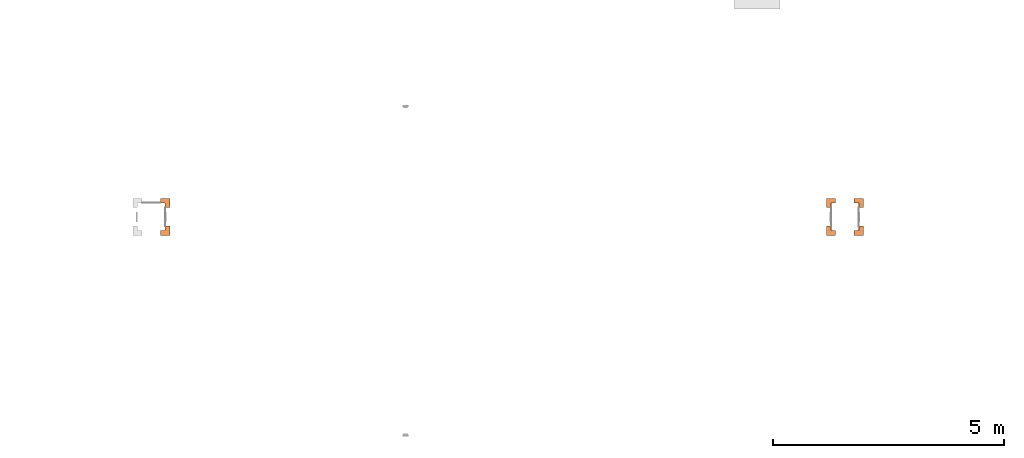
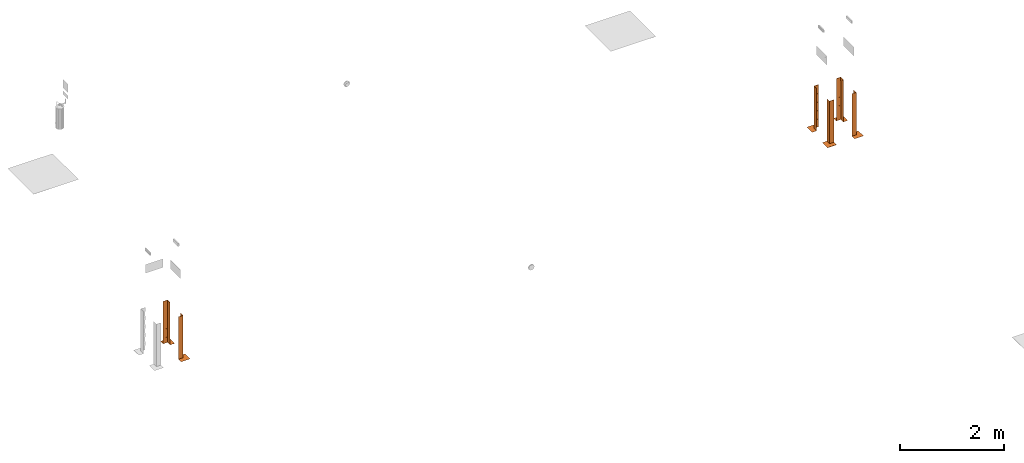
# One storey, part 6 of 119: 6 proxies.
"""IFC2X3 building model written with IfcOpenShell, lengths in metres."""

from ifc_helpers import new_model, entity, si_unit, converted_unit, derived_unit, direction, frame, origin, place, context, subcontext, project, spatial, faceted_brep, source, transform, mapped, material, material_list, type_object, type_shapes, element, save


model = new_model("IFC2X3")

# Units and contexts
model_context = context("Model", 3, precision=1e-05, world=origin(), true_north=direction((6.12303176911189e-17, 1.0)))
body_context = subcontext(model_context, "Body", "Model", "MODEL_VIEW")
ifc_project = project(units=[si_unit("LENGTHUNIT", "METRE"), si_unit("AREAUNIT", "SQUARE_METRE"), si_unit("VOLUMEUNIT", "CUBIC_METRE"), converted_unit("PLANEANGLEUNIT", "DEGREE", entity("IfcRatioMeasure", 0.0174532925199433), si_unit("PLANEANGLEUNIT", "RADIAN"), dimensions=[0, 0, 0, 0, 0, 0, 0]), si_unit("MASSUNIT", "GRAM", prefix="KILO"), derived_unit("MASSDENSITYUNIT", [(si_unit("MASSUNIT", "GRAM", prefix="KILO"), 1), (si_unit("LENGTHUNIT", "METRE"), -3)]), derived_unit("MOMENTOFINERTIAUNIT", [(si_unit("LENGTHUNIT", "METRE"), 4)]), si_unit("TIMEUNIT", "SECOND"), si_unit("FREQUENCYUNIT", "HERTZ"), si_unit("THERMODYNAMICTEMPERATUREUNIT", "DEGREE_CELSIUS"), derived_unit("THERMALTRANSMITTANCEUNIT", [(si_unit("MASSUNIT", "GRAM", prefix="KILO"), 1), (si_unit("THERMODYNAMICTEMPERATUREUNIT", "KELVIN"), -1), (si_unit("TIMEUNIT", "SECOND"), -3)]), derived_unit("VOLUMETRICFLOWRATEUNIT", [(si_unit("LENGTHUNIT", "METRE"), 3), (si_unit("TIMEUNIT", "SECOND"), -1)]), si_unit("ELECTRICCURRENTUNIT", "AMPERE"), si_unit("ELECTRICVOLTAGEUNIT", "VOLT"), si_unit("POWERUNIT", "WATT"), si_unit("FORCEUNIT", "NEWTON", prefix="KILO"), si_unit("ILLUMINANCEUNIT", "LUX"), si_unit("LUMINOUSFLUXUNIT", "LUMEN"), si_unit("LUMINOUSINTENSITYUNIT", "CANDELA"), derived_unit("USERDEFINED", [(si_unit("MASSUNIT", "GRAM", prefix="KILO"), -1), (si_unit("LENGTHUNIT", "METRE"), -2), (si_unit("TIMEUNIT", "SECOND"), 3), (si_unit("LUMINOUSFLUXUNIT", "LUMEN"), 1)]), derived_unit("LINEARVELOCITYUNIT", [(si_unit("LENGTHUNIT", "METRE"), 1), (si_unit("TIMEUNIT", "SECOND"), -1)]), si_unit("PRESSUREUNIT", "PASCAL"), derived_unit("USERDEFINED", [(si_unit("LENGTHUNIT", "METRE"), -2), (si_unit("MASSUNIT", "GRAM", prefix="KILO"), 1), (si_unit("TIMEUNIT", "SECOND"), -2)]), derived_unit("LINEARFORCEUNIT", [(si_unit("MASSUNIT", "GRAM", prefix="KILO"), 1), (si_unit("LENGTHUNIT", "METRE"), 1), (si_unit("TIMEUNIT", "SECOND"), -2), (si_unit("LENGTHUNIT", "METRE"), -1)]), derived_unit("PLANARFORCEUNIT", [(si_unit("MASSUNIT", "GRAM", prefix="KILO"), 1), (si_unit("LENGTHUNIT", "METRE"), 1), (si_unit("TIMEUNIT", "SECOND"), -2), (si_unit("LENGTHUNIT", "METRE"), -2)])], contexts=[model_context])

# Site, building, storey
site_placement = place(None, origin())
site = spatial("IfcSite", under=ifc_project, at=site_placement, Name="Default", CompositionType="ELEMENT")
building_placement = place(site_placement, origin())
building = spatial("IfcBuilding", under=site, at=building_placement, CompositionType="ELEMENT")
storey_placement = place(building_placement, origin())
storey = spatial("IfcBuildingStorey", under=building, at=storey_placement, Name="PAV. 01 - TÉRREO", CompositionType="ELEMENT", Elevation=0.0)

# Proxies
ifc_material_1 = material(Name="Plastico Amarelo")
ifc_material_2 = material(Name="Plastico Preto")
ifc_material_3 = material(Name="O_01_amarelo")
ifc_material_4 = material(Name="O_01_Preto")
ifc_material_list_1 = material_list([ifc_material_1, ifc_material_2, ifc_material_3, ifc_material_4])
ifc_material_list_2 = material_list([ifc_material_3, ifc_material_4, ifc_material_1])
building_element_proxy_type = type_object("IfcBuildingElementProxyType", Name="Indicação de Obstáculos:Indicador - O01 - Amarelo (ambiente interno)", PredefinedType="NOTDEFINED", material=ifc_material_list_2)
shared_shape = source(origin(), body_context, "Body", "Brep", [
    faceted_brep([(0.1, -0.0499999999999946, 0.000999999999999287), (0.0499999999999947, -0.1, 0.000999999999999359), (0.1, -0.1, 0.000999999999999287), (0.1, -0.0499999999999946, 0.0), (0.1, -0.1, 0.0), (0.0499999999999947, -0.1, 0.0)], [[[0, 1, 2]], [[3, 4, 5]], [[0, 2, 4, 3]], [[1, 0, 3, 5]], [[2, 1, 5, 4]]]),
    faceted_brep([(0.100000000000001, 0.0, 0.000999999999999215), (0.0, -0.1, 0.000999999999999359), (0.049999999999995, -0.1, 0.000999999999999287), (0.100000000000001, -0.0499999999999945, 0.000999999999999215), (0.100000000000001, 0.0, 0.0), (0.100000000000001, -0.0499999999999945, 0.0), (0.049999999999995, -0.1, 0.0), (0.0, -0.1, 0.0)], [[[0, 1, 2, 3]], [[4, 5, 6, 7]], [[0, 3, 5, 4]], [[1, 0, 4, 7]], [[3, 2, 6, 5]], [[2, 1, 7, 6]]]),
    faceted_brep([(0.049999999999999, 0.0, 0.000999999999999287), (-0.0500000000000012, -0.0999999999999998, 0.000999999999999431), (0.0, -0.1, 0.000999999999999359), (0.0999999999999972, 0.0, 0.000999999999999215), (0.049999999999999, 0.0, 0.0), (0.0999999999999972, 0.0, 0.0), (0.0, -0.1, 0.0), (-0.0500000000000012, -0.0999999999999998, 0.0)], [[[0, 1, 2, 3]], [[4, 5, 6, 7]], [[1, 0, 4, 7]], [[3, 2, 6, 5]], [[2, 1, 7, 6]], [[0, 3, 5, 4]]]),
    faceted_brep([(-0.0999999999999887, -0.0999999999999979, 0.000999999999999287), (-0.0499999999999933, -0.0999999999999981, 0.000999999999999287), (0.0499999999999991, 0.0, 0.000999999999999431), (0.0, 0.0, 0.000999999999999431), (-0.0999999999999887, -0.0999999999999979, 0.0), (0.0, 0.0, 0.0), (0.049999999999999, 0.0, 0.0), (-0.0499999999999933, -0.0999999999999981, 0.0)], [[[0, 1, 2, 3]], [[4, 5, 6, 7]], [[0, 3, 5, 4]], [[2, 1, 7, 6]], [[3, 2, 6, 5]], [[1, 0, 4, 7]]]),
    faceted_brep([(0.0, 0.0500000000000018, 0.000999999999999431), (-0.0999999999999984, -0.0500000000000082, 0.000999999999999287), (-0.099999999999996, -0.100000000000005, 0.000999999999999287), (0.0, 0.0, 0.000999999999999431), (0.0, 0.0500000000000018, 0.0), (0.0, 0.0, 0.0), (-0.099999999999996, -0.100000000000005, 0.0), (-0.0999999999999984, -0.0500000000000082, 0.0)], [[[0, 1, 2, 3]], [[4, 5, 6, 7]], [[0, 3, 5, 4]], [[1, 0, 4, 7]], [[2, 1, 7, 6]], [[3, 2, 6, 5]]]),
    faceted_brep([(-0.0999999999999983, 0.0499999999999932, 0.000999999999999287), (-0.0499999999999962, 0.1, 0.000999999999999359), (-0.100000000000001, 0.1, 0.000999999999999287), (-0.0999999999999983, 0.0499999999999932, 0.0), (-0.100000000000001, 0.1, 0.0), (-0.0499999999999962, 0.1, 0.0)], [[[0, 1, 2]], [[3, 4, 5]], [[0, 2, 4, 3]], [[1, 0, 3, 5]], [[2, 1, 5, 4]]]),
    faceted_brep([(-0.0999999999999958, 0.0, 0.000999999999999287), (0.0, 0.1, 0.000999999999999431), (-0.0499999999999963, 0.1, 0.000999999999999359), (-0.0999999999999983, 0.0499999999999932, 0.000999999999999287), (-0.0999999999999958, 0.0, 0.0), (-0.0999999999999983, 0.0499999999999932, 0.0), (-0.0499999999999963, 0.1, 0.0), (0.0, 0.1, 0.0)], [[[0, 1, 2, 3]], [[4, 5, 6, 7]], [[0, 3, 5, 4]], [[1, 0, 4, 7]], [[3, 2, 6, 5]], [[2, 1, 7, 6]]]),
    faceted_brep([(0.0, 0.050000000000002, 0.000999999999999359), (0.0, 0.1, 0.000999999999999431), (-0.0999999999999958, 0.0, 0.000999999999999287), (-0.0999999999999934, -0.0500000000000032, 0.000999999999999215), (0.0, 0.0500000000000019, 0.0), (-0.0999999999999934, -0.0500000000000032, 0.0), (-0.0999999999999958, 0.0, 0.0), (0.0, 0.1, 0.0)], [[[0, 1, 2, 3]], [[4, 5, 6, 7]], [[1, 0, 4, 7]], [[2, 1, 7, 6]], [[0, 3, 5, 4]], [[3, 2, 6, 5]]]),
    faceted_brep([(0.00200000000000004, 0.1, 1.0), (0.002, 0.00199999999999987, 0.902000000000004), (0.002, 0.00199999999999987, 0.802000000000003), (0.00200000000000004, 0.1, 0.900000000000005), (0.0, 0.1, 0.900000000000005), (0.0, 0.0, 0.800000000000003), (0.0, 0.0, 0.900000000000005), (0.0, 0.1, 1.0)], [[[0, 1, 2, 3]], [[4, 5, 6, 7]], [[4, 3, 2, 5]], [[1, 6, 5, 2]], [[6, 1, 0, 7]], [[3, 4, 7, 0]]]),
    faceted_brep([(0.00200000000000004, 0.1, 0.800000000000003), (0.002, 0.00199999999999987, 0.702000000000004), (0.002, 0.00199999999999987, 0.602000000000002), (0.00200000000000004, 0.1, 0.700000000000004), (0.0, 0.1, 0.700000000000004), (0.0, 0.0, 0.600000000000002), (0.0, 0.0, 0.700000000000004), (0.0, 0.1, 0.800000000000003)], [[[0, 1, 2, 3]], [[4, 5, 6, 7]], [[4, 3, 2, 5]], [[1, 6, 5, 2]], [[6, 1, 0, 7]], [[3, 4, 7, 0]]]),
    faceted_brep([(0.00200000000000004, 0.1, 0.600000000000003), (0.002, 0.00199999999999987, 0.502000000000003), (0.002, 0.00199999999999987, 0.402000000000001), (0.00200000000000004, 0.1, 0.500000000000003), (0.0, 0.1, 0.500000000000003), (0.0, 0.0, 0.400000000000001), (0.0, 0.0, 0.500000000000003), (0.0, 0.1, 0.600000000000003)], [[[0, 1, 2, 3]], [[4, 5, 6, 7]], [[4, 3, 2, 5]], [[1, 6, 5, 2]], [[6, 1, 0, 7]], [[3, 4, 7, 0]]]),
    faceted_brep([(0.00200000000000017, 0.0999999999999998, 0.400000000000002), (0.00200000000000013, 0.0019999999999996, 0.302000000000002), (0.00200000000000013, 0.0019999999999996, 0.202), (0.00200000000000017, 0.0999999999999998, 0.300000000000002), (0.0, 0.0999999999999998, 0.300000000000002), (0.0, 0.0, 0.2), (0.0, 0.0, 0.300000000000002), (0.0, 0.0999999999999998, 0.400000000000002)], [[[0, 1, 2, 3]], [[4, 5, 6, 7]], [[4, 3, 2, 5]], [[1, 6, 5, 2]], [[6, 1, 0, 7]], [[3, 4, 7, 0]]]),
    faceted_brep([(0.000500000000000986, 0.1, 0.900000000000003), (0.000500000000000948, 0.000499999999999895, 0.800500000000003), (0.000500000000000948, 0.00049999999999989, 0.700500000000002), (0.000500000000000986, 0.1, 0.800000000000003), (0.0, 0.1, 0.800000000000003), (0.0, 0.0, 0.700000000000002), (0.0, 0.0, 0.800000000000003), (0.0, 0.1, 0.900000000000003)], [[[0, 1, 2, 3]], [[4, 5, 6, 7]], [[4, 3, 2, 5]], [[1, 6, 5, 2]], [[6, 1, 0, 7]], [[3, 4, 7, 0]]]),
    faceted_brep([(0.000500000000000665, 0.1, 0.700000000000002), (0.000500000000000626, 0.000499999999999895, 0.600500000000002), (0.000500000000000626, 0.00049999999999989, 0.500500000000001), (0.000500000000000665, 0.1, 0.600000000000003), (0.0, 0.1, 0.600000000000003), (0.0, 0.0, 0.500000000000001), (0.0, 0.0, 0.600000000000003), (0.0, 0.1, 0.700000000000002)], [[[0, 1, 2, 3]], [[4, 5, 6, 7]], [[4, 3, 2, 5]], [[1, 6, 5, 2]], [[6, 1, 0, 7]], [[3, 4, 7, 0]]]),
    faceted_brep([(0.000500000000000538, 0.0999999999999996, 0.500000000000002), (0.000500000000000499, 0.000499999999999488, 0.400500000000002), (0.000500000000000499, 0.000499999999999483, 0.3005), (0.000500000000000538, 0.0999999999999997, 0.400000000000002), (0.0, 0.0999999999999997, 0.400000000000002), (0.0, 0.0, 0.3), (0.0, 0.0, 0.400000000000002), (0.0, 0.0999999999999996, 0.500000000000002)], [[[0, 1, 2, 3]], [[4, 5, 6, 7]], [[4, 3, 2, 5]], [[1, 6, 5, 2]], [[6, 1, 0, 7]], [[3, 4, 7, 0]]]),
    faceted_brep([(0.00499999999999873, 0.00499999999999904, 1.0), (0.00499999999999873, 0.00499999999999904, 0.904999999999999), (0.00499999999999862, 0.0999999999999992, 1.0), (0.0, 0.0, 0.899999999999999), (0.0, 0.0, 1.0), (0.0, 0.0999999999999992, 1.0)], [[[0, 1, 2]], [[3, 4, 5]], [[4, 0, 2, 5]], [[5, 2, 1, 3]], [[0, 4, 3, 1]]]),
    faceted_brep([(0.00499999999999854, 0.00499999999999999, 1.0), (0.0999999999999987, 0.00499999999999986, 1.0), (0.00499999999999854, 0.00499999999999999, 0.904999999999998), (0.0, 0.0, 0.899999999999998), (0.0999999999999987, 0.0, 1.0), (0.0, 0.0, 1.0)], [[[0, 1, 2]], [[3, 4, 5]], [[5, 4, 1, 0]], [[4, 3, 2, 1]], [[0, 2, 3, 5]]]),
    faceted_brep([(0.0999999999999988, 0.000499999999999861, 0.900000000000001), (0.0999999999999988, 0.000499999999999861, 0.800000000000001), (0.000499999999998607, 0.000499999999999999, 0.7005), (0.000499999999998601, 0.000499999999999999, 0.800500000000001), (0.0999999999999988, 0.0, 0.800000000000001), (0.0999999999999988, 0.0, 0.900000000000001), (0.0, 0.0, 0.800000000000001), (0.0, 0.0, 0.7)], [[[0, 1, 2, 3]], [[4, 5, 6, 7]], [[4, 7, 2, 1]], [[3, 2, 7, 6]], [[6, 5, 0, 3]], [[1, 0, 5, 4]]]),
    faceted_brep([(0.0999999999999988, 0.000499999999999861, 0.700000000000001), (0.0999999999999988, 0.000499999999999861, 0.600000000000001), (0.000499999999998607, 0.000499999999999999, 0.5005), (0.000499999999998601, 0.000499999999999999, 0.600500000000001), (0.0999999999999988, 0.0, 0.600000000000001), (0.0999999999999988, 0.0, 0.700000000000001), (0.0, 0.0, 0.600000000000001), (0.0, 0.0, 0.5)], [[[0, 1, 2, 3]], [[4, 5, 6, 7]], [[4, 7, 2, 1]], [[3, 2, 7, 6]], [[6, 5, 0, 3]], [[1, 0, 5, 4]]]),
    faceted_brep([(0.0999999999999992, 0.000499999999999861, 0.500000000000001), (0.0999999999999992, 0.000499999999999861, 0.400000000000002), (0.000499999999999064, 0.000499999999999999, 0.3005), (0.000499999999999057, 0.000499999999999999, 0.400500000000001), (0.0999999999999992, 0.0, 0.400000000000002), (0.0999999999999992, 0.0, 0.500000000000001), (0.0, 0.0, 0.400000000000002), (0.0, 0.0, 0.3)], [[[0, 1, 2, 3]], [[4, 5, 6, 7]], [[4, 7, 2, 1]], [[3, 2, 7, 6]], [[6, 5, 0, 3]], [[1, 0, 5, 4]]]),
    faceted_brep([(0.0999999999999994, 0.00199999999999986, 1.0), (0.0999999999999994, 0.00199999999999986, 0.900000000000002), (0.00199999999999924, 0.002, 0.802), (0.00199999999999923, 0.002, 0.902000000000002), (0.0999999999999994, 0.0, 0.900000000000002), (0.0999999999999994, 0.0, 1.0), (0.0, 0.0, 0.900000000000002), (0.0, 0.0, 0.8)], [[[0, 1, 2, 3]], [[4, 5, 6, 7]], [[4, 7, 2, 1]], [[3, 2, 7, 6]], [[6, 5, 0, 3]], [[1, 0, 5, 4]]]),
    faceted_brep([(0.0999999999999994, 0.00199999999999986, 0.800000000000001), (0.0999999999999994, 0.00199999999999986, 0.700000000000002), (0.00199999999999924, 0.002, 0.602), (0.00199999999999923, 0.002, 0.702000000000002), (0.0999999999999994, 0.0, 0.700000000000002), (0.0999999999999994, 0.0, 0.800000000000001), (0.0, 0.0, 0.700000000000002), (0.0, 0.0, 0.6)], [[[0, 1, 2, 3]], [[4, 5, 6, 7]], [[4, 7, 2, 1]], [[3, 2, 7, 6]], [[6, 5, 0, 3]], [[1, 0, 5, 4]]]),
    faceted_brep([(0.0999999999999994, 0.00199999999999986, 0.600000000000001), (0.0999999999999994, 0.00199999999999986, 0.500000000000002), (0.00199999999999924, 0.002, 0.402), (0.00199999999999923, 0.002, 0.502000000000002), (0.0999999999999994, 0.0, 0.500000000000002), (0.0999999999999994, 0.0, 0.600000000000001), (0.0, 0.0, 0.500000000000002), (0.0, 0.0, 0.4)], [[[0, 1, 2, 3]], [[4, 5, 6, 7]], [[4, 7, 2, 1]], [[3, 2, 7, 6]], [[6, 5, 0, 3]], [[1, 0, 5, 4]]]),
    faceted_brep([(0.0999999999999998, 0.00199999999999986, 0.400000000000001), (0.0999999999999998, 0.00199999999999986, 0.300000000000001), (0.00199999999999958, 0.002, 0.202), (0.00199999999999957, 0.002, 0.302000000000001), (0.0999999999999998, 0.0, 0.300000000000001), (0.0999999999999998, 0.0, 0.400000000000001), (0.0, 0.0, 0.300000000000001), (0.0, 0.0, 0.2)], [[[0, 1, 2, 3]], [[4, 5, 6, 7]], [[4, 7, 2, 1]], [[3, 2, 7, 6]], [[6, 5, 0, 3]], [[1, 0, 5, 4]]]),
    faceted_brep([(0.000500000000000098, 0.1, 0.300000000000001), (0.000500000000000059, 0.000499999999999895, 0.200500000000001), (0.000500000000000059, 0.00049999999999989, 0.1005), (0.000500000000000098, 0.1, 0.200000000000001), (0.0, 0.1, 0.200000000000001), (0.0, 0.0, 0.0999999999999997), (0.0, 0.0, 0.200000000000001), (0.0, 0.1, 0.300000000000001)], [[[0, 1, 2, 3]], [[4, 5, 6, 7]], [[4, 3, 2, 5]], [[1, 6, 5, 2]], [[6, 1, 0, 7]], [[3, 4, 7, 0]]]),
    faceted_brep([(0.00200000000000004, 0.1, 0.200000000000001), (0.002, 0.00199999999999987, 0.102000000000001), (0.002, 0.00199999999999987, 0.00199999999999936), (0.00200000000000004, 0.1, 0.100000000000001), (0.0, 0.1, 0.100000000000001), (0.0, 0.0, 0.0), (0.0, 0.0, 0.100000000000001), (0.0, 0.1, 0.200000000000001)], [[[0, 1, 2, 3]], [[4, 5, 6, 7]], [[4, 3, 2, 5]], [[1, 6, 5, 2]], [[6, 1, 0, 7]], [[3, 4, 7, 0]]]),
    faceted_brep([(0.000500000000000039, 0.1, 0.100000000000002), (0.0005, 0.000499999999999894, 0.000499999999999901), (0.0005, 0.000499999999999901, 0.0), (0.000500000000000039, 0.1, 0.0), (0.0, 0.0, 0.0), (0.0, 0.1, 0.100000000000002), (0.0, 0.1, 0.0)], [[[0, 1, 2, 3]], [[4, 5, 6]], [[3, 6, 5, 0]], [[6, 3, 2, 4]], [[4, 1, 0, 5]], [[1, 4, 2]]]),
    faceted_brep([(0.0999999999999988, 0.000499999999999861, 0.300000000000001), (0.0999999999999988, 0.000499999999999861, 0.200000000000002), (0.000499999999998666, 0.000499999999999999, 0.1005), (0.00049999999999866, 0.000499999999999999, 0.200500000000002), (0.0999999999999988, 0.0, 0.200000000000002), (0.0999999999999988, 0.0, 0.300000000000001), (0.0, 0.0, 0.200000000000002), (0.0, 0.0, 0.1)], [[[0, 1, 2, 3]], [[4, 5, 6, 7]], [[4, 7, 2, 1]], [[3, 2, 7, 6]], [[6, 5, 0, 3]], [[1, 0, 5, 4]]]),
    faceted_brep([(0.0999999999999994, 0.00199999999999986, 0.200000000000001), (0.0999999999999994, 0.00199999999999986, 0.100000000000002), (0.00199999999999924, 0.002, 0.0019999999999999), (0.00199999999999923, 0.002, 0.102000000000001), (0.0999999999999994, 0.0, 0.100000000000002), (0.0999999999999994, 0.0, 0.200000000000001), (0.0, 0.0, 0.100000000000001), (0.0, 0.0, 0.0)], [[[0, 1, 2, 3]], [[4, 5, 6, 7]], [[4, 7, 2, 1]], [[3, 2, 7, 6]], [[6, 5, 0, 3]], [[1, 0, 5, 4]]]),
    faceted_brep([(0.1, 0.000499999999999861, 0.100000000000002), (0.1, 0.000499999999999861, 0.0), (0.000499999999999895, 0.000499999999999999, 0.0), (0.000499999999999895, 0.000499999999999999, 0.000499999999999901), (0.0, 0.0, 0.0), (0.1, 0.0, 0.0), (0.1, 0.0, 0.100000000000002)], [[[0, 1, 2, 3]], [[4, 5, 6]], [[1, 0, 6, 5]], [[5, 4, 2, 1]], [[4, 6, 0, 3]], [[3, 2, 4]]]),
])
type_shapes(building_element_proxy_type, [shared_shape])
proxy_1_placement = place(storey_placement, frame((6.47387477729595, 22.6286563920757, 0.0), z_axis=(0.0, 0.0, 1.0), x_axis=(0.0, 1.0, 0.0)))
element("IfcBuildingElementProxy", 1, at=proxy_1_placement, inside=storey, type_object=building_element_proxy_type, material=ifc_material_list_1, Name="Indicação de Obstáculos:Indicador - O01 - Amarelo (ambiente interno)", ObjectType="Indicação de Obstáculos:Indicador - O01 - Amarelo (ambiente interno)", context=body_context, shape_type="MappedRepresentation", body=[
    mapped(shared_shape, transform((0.0, 0.0, 0.0), scale=1.0)),
])
ifc_material_list_3 = material_list([ifc_material_1, ifc_material_2, ifc_material_3, ifc_material_4])
proxy_2_placement = place(storey_placement, frame((6.47387477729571, 23.2286556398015, 0.0), z_axis=(0.0, 0.0, 1.0), x_axis=(-1.0, 0.0, 0.0)))
element("IfcBuildingElementProxy", 2, at=proxy_2_placement, inside=storey, type_object=building_element_proxy_type, material=ifc_material_list_3, Name="Indicação de Obstáculos:Indicador - O01 - Amarelo (ambiente interno)", ObjectType="Indicação de Obstáculos:Indicador - O01 - Amarelo (ambiente interno)", context=body_context, shape_type="MappedRepresentation", body=[
    mapped(shared_shape, transform((0.0, 0.0, 0.0), scale=1.0)),
])
ifc_material_list_4 = material_list([ifc_material_1, ifc_material_2, ifc_material_3, ifc_material_4])
proxy_3_placement = place(storey_placement, frame((21.4738560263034, 22.6286563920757, 0.0), z_axis=(0.0, 0.0, 1.0), x_axis=(0.0, 1.0, 0.0)))
element("IfcBuildingElementProxy", 3, at=proxy_3_placement, inside=storey, type_object=building_element_proxy_type, material=ifc_material_list_4, Name="Indicação de Obstáculos:Indicador - O01 - Amarelo (ambiente interno)", ObjectType="Indicação de Obstáculos:Indicador - O01 - Amarelo (ambiente interno)", context=body_context, shape_type="MappedRepresentation", body=[
    mapped(shared_shape, transform((0.0, 0.0, 0.0), scale=1.0)),
])
ifc_material_list_5 = material_list([ifc_material_1, ifc_material_2, ifc_material_3, ifc_material_4])
proxy_4_placement = place(storey_placement, frame((20.8738567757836, 22.6286563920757, 0.0)))
element("IfcBuildingElementProxy", 4, at=proxy_4_placement, inside=storey, type_object=building_element_proxy_type, material=ifc_material_list_5, Name="Indicação de Obstáculos:Indicador - O01 - Amarelo (ambiente interno)", ObjectType="Indicação de Obstáculos:Indicador - O01 - Amarelo (ambiente interno)", context=body_context, shape_type="MappedRepresentation", body=[
    mapped(shared_shape, transform((0.0, 0.0, 0.0), scale=1.0)),
])
ifc_material_list_6 = material_list([ifc_material_1, ifc_material_2, ifc_material_3, ifc_material_4])
proxy_5_placement = place(storey_placement, frame((21.4738560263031, 23.2286556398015, 0.0), z_axis=(0.0, 0.0, 1.0), x_axis=(-1.0, 0.0, 0.0)))
element("IfcBuildingElementProxy", 5, at=proxy_5_placement, inside=storey, type_object=building_element_proxy_type, material=ifc_material_list_6, Name="Indicação de Obstáculos:Indicador - O01 - Amarelo (ambiente interno)", ObjectType="Indicação de Obstáculos:Indicador - O01 - Amarelo (ambiente interno)", context=body_context, shape_type="MappedRepresentation", body=[
    mapped(shared_shape, transform((0.0, 0.0, 0.0), scale=1.0)),
])
ifc_material_list_7 = material_list([ifc_material_1, ifc_material_2, ifc_material_3, ifc_material_4])
proxy_6_placement = place(storey_placement, frame((20.8738567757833, 23.2286556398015, 0.0), z_axis=(0.0, 0.0, 1.0), x_axis=(0.0, -1.0, 0.0)))
element("IfcBuildingElementProxy", 6, at=proxy_6_placement, inside=storey, type_object=building_element_proxy_type, material=ifc_material_list_7, Name="Indicação de Obstáculos:Indicador - O01 - Amarelo (ambiente interno)", ObjectType="Indicação de Obstáculos:Indicador - O01 - Amarelo (ambiente interno)", context=body_context, shape_type="MappedRepresentation", body=[
    mapped(shared_shape, transform((0.0, 0.0, 0.0), scale=1.0)),
])

save(model, "model.ifc")
